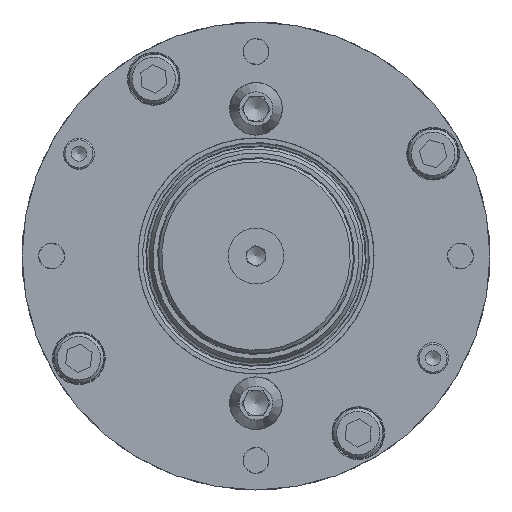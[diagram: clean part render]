
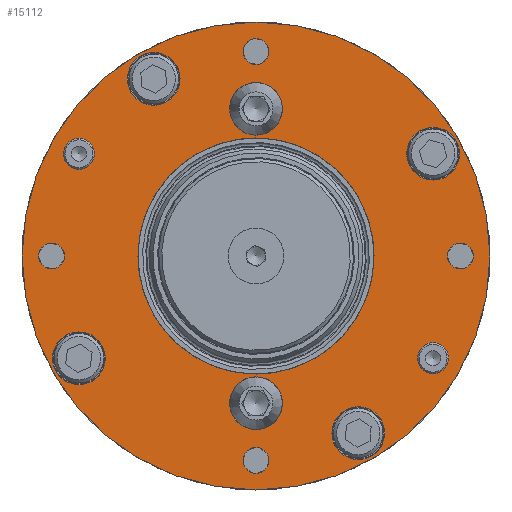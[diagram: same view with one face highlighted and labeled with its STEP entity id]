
A CAD part, left-side view. The second image highlights one B-rep face of the part: STEP entity #15112.
In plain terms, the highlighted planar face has unit normal (-1, 0, 0) as drawn and (0, 0, 1) by its records, which use the part's own axes.
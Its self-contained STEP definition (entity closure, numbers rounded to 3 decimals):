
#3555=PLANE($,#16307);
#4145=FACE_BOUND($,#5854,.T.);
#4146=FACE_BOUND($,#5855,.T.);
#4147=FACE_BOUND($,#5856,.T.);
#4148=FACE_BOUND($,#5857,.T.);
#4149=FACE_BOUND($,#5858,.T.);
#4150=FACE_BOUND($,#5859,.T.);
#4151=FACE_BOUND($,#5860,.T.);
#4152=FACE_BOUND($,#5861,.T.);
#4153=FACE_BOUND($,#5862,.T.);
#4154=FACE_BOUND($,#5863,.T.);
#4155=FACE_BOUND($,#5864,.T.);
#4156=FACE_BOUND($,#5865,.T.);
#4157=FACE_BOUND($,#5866,.T.);
#4158=FACE_BOUND($,#5867,.T.);
#5854=EDGE_LOOP($,(#11631));
#5855=EDGE_LOOP($,(#11632));
#5856=EDGE_LOOP($,(#11633));
#5857=EDGE_LOOP($,(#11634));
#5858=EDGE_LOOP($,(#11635));
#5859=EDGE_LOOP($,(#11636));
#5860=EDGE_LOOP($,(#11637));
#5861=EDGE_LOOP($,(#11638));
#5862=EDGE_LOOP($,(#11639));
#5863=EDGE_LOOP($,(#11640));
#5864=EDGE_LOOP($,(#11641));
#5865=EDGE_LOOP($,(#11642));
#5866=EDGE_LOOP($,(#11643));
#5867=EDGE_LOOP($,(#11644));
#6975=CIRCLE($,#16233,38.1);
#6979=CIRCLE($,#16239,5.);
#6983=CIRCLE($,#16246,8.5);
#6989=CIRCLE($,#16254,5.);
#6992=CIRCLE($,#16260,8.5);
#6995=CIRCLE($,#16265,4.188);
#6998=CIRCLE($,#16270,8.5);
#7001=CIRCLE($,#16275,4.188);
#7004=CIRCLE($,#16280,8.5);
#7007=CIRCLE($,#16285,4.188);
#7010=CIRCLE($,#16290,8.5);
#7013=CIRCLE($,#16295,4.188);
#7016=CIRCLE($,#16300,8.5);
#7019=CIRCLE($,#16306,75.502);
#7645=VERTEX_POINT($,#22559);
#7649=VERTEX_POINT($,#22569);
#7653=VERTEX_POINT($,#22580);
#7657=VERTEX_POINT($,#22592);
#7660=VERTEX_POINT($,#22601);
#7663=VERTEX_POINT($,#22609);
#7666=VERTEX_POINT($,#22617);
#7669=VERTEX_POINT($,#22625);
#7672=VERTEX_POINT($,#22633);
#7675=VERTEX_POINT($,#22641);
#7678=VERTEX_POINT($,#22649);
#7681=VERTEX_POINT($,#22657);
#7684=VERTEX_POINT($,#22665);
#7687=VERTEX_POINT($,#22674);
#9162=EDGE_CURVE($,#7645,#7645,#6975,.T.);
#9166=EDGE_CURVE($,#7649,#7649,#6979,.T.);
#9170=EDGE_CURVE($,#7653,#7653,#6983,.T.);
#9176=EDGE_CURVE($,#7657,#7657,#6989,.T.);
#9179=EDGE_CURVE($,#7660,#7660,#6992,.T.);
#9182=EDGE_CURVE($,#7663,#7663,#6995,.T.);
#9185=EDGE_CURVE($,#7666,#7666,#6998,.T.);
#9188=EDGE_CURVE($,#7669,#7669,#7001,.T.);
#9191=EDGE_CURVE($,#7672,#7672,#7004,.T.);
#9194=EDGE_CURVE($,#7675,#7675,#7007,.T.);
#9197=EDGE_CURVE($,#7678,#7678,#7010,.T.);
#9200=EDGE_CURVE($,#7681,#7681,#7013,.T.);
#9203=EDGE_CURVE($,#7684,#7684,#7016,.T.);
#9206=EDGE_CURVE($,#7687,#7687,#7019,.T.);
#11631=ORIENTED_EDGE($,*,*,#9162,.T.);
#11632=ORIENTED_EDGE($,*,*,#9166,.T.);
#11633=ORIENTED_EDGE($,*,*,#9170,.T.);
#11634=ORIENTED_EDGE($,*,*,#9176,.T.);
#11635=ORIENTED_EDGE($,*,*,#9179,.T.);
#11636=ORIENTED_EDGE($,*,*,#9182,.T.);
#11637=ORIENTED_EDGE($,*,*,#9185,.T.);
#11638=ORIENTED_EDGE($,*,*,#9188,.T.);
#11639=ORIENTED_EDGE($,*,*,#9191,.T.);
#11640=ORIENTED_EDGE($,*,*,#9194,.T.);
#11641=ORIENTED_EDGE($,*,*,#9197,.T.);
#11642=ORIENTED_EDGE($,*,*,#9200,.T.);
#11643=ORIENTED_EDGE($,*,*,#9203,.T.);
#11644=ORIENTED_EDGE($,*,*,#9206,.F.);
#15112=ADVANCED_FACE($,(#4145,#4146,#4147,#4148,#4149,#4150,#4151,#4152,
#4153,#4154,#4155,#4156,#4157,#4158),#3555,.F.);
#16233=AXIS2_PLACEMENT_3D($,#22560,#18293,#18294);
#16239=AXIS2_PLACEMENT_3D($,#22570,#18305,#18306);
#16246=AXIS2_PLACEMENT_3D($,#22581,#18319,#18320);
#16254=AXIS2_PLACEMENT_3D($,#22593,#18335,#18336);
#16260=AXIS2_PLACEMENT_3D($,#22602,#18347,#18348);
#16265=AXIS2_PLACEMENT_3D($,#22610,#18357,#18358);
#16270=AXIS2_PLACEMENT_3D($,#22618,#18367,#18368);
#16275=AXIS2_PLACEMENT_3D($,#22626,#18377,#18378);
#16280=AXIS2_PLACEMENT_3D($,#22634,#18387,#18388);
#16285=AXIS2_PLACEMENT_3D($,#22642,#18397,#18398);
#16290=AXIS2_PLACEMENT_3D($,#22650,#18407,#18408);
#16295=AXIS2_PLACEMENT_3D($,#22658,#18417,#18418);
#16300=AXIS2_PLACEMENT_3D($,#22666,#18427,#18428);
#16306=AXIS2_PLACEMENT_3D($,#22675,#18439,#18440);
#16307=AXIS2_PLACEMENT_3D($,#22676,#18441,#18442);
#18293=DIRECTION('center_axis',(0.,0.,-1.));
#18294=DIRECTION('ref_axis',(1.,0.,0.));
#18305=DIRECTION('center_axis',(0.,0.,-1.));
#18306=DIRECTION('ref_axis',(-1.,0.,0.));
#18319=DIRECTION('center_axis',(0.,0.,-1.));
#18320=DIRECTION('ref_axis',(-1.,0.,0.));
#18335=DIRECTION('center_axis',(0.,0.,-1.));
#18336=DIRECTION('ref_axis',(1.,0.,0.));
#18347=DIRECTION('center_axis',(0.,0.,-1.));
#18348=DIRECTION('ref_axis',(1.,0.,0.));
#18357=DIRECTION('center_axis',(0.,0.,-1.));
#18358=DIRECTION('ref_axis',(0.,-1.,0.));
#18367=DIRECTION('center_axis',(0.,0.,-1.));
#18368=DIRECTION('ref_axis',(0.,-1.,0.));
#18377=DIRECTION('center_axis',(0.,0.,-1.));
#18378=DIRECTION('ref_axis',(-1.,0.,0.));
#18387=DIRECTION('center_axis',(0.,0.,-1.));
#18388=DIRECTION('ref_axis',(-1.,0.,0.));
#18397=DIRECTION('center_axis',(0.,0.,-1.));
#18398=DIRECTION('ref_axis',(0.,1.,0.));
#18407=DIRECTION('center_axis',(0.,0.,-1.));
#18408=DIRECTION('ref_axis',(0.,1.,0.));
#18417=DIRECTION('center_axis',(0.,0.,-1.));
#18418=DIRECTION('ref_axis',(1.,0.,0.));
#18427=DIRECTION('center_axis',(0.,0.,-1.));
#18428=DIRECTION('ref_axis',(1.,0.,0.));
#18439=DIRECTION('center_axis',(0.,0.,-1.));
#18440=DIRECTION('ref_axis',(-1.,0.,0.));
#18441=DIRECTION('center_axis',(0.,0.,-1.));
#18442=DIRECTION('ref_axis',(-1.,0.,0.));
#22559=CARTESIAN_POINT('',(38.1,-1.851,0.));
#22560=CARTESIAN_POINT('Origin',(0.,-1.851,0.));
#22569=CARTESIAN_POINT('',(52.158,31.149,0.));
#22570=CARTESIAN_POINT('Origin',(57.158,31.149,0.));
#22580=CARTESIAN_POINT('',(32.636,-25.601,0.));
#22581=CARTESIAN_POINT('Origin',(41.136,-25.601,0.));
#22592=CARTESIAN_POINT('',(-52.158,-34.851,0.));
#22593=CARTESIAN_POINT('Origin',(-57.158,-34.851,0.));
#22601=CARTESIAN_POINT('',(-32.636,21.899,0.));
#22602=CARTESIAN_POINT('Origin',(-41.136,21.899,0.));
#22609=CARTESIAN_POINT('',(33.,51.119,0.));
#22610=CARTESIAN_POINT('Origin',(33.,55.307,0.));
#22617=CARTESIAN_POINT('',(66.,-10.351,0.));
#22618=CARTESIAN_POINT('Origin',(66.,-1.851,0.));
#22625=CARTESIAN_POINT('',(52.97,-34.851,0.));
#22626=CARTESIAN_POINT('Origin',(57.158,-34.851,0.));
#22633=CARTESIAN_POINT('',(-8.5,-67.851,0.));
#22634=CARTESIAN_POINT('Origin',(0.,-67.851,
0.));
#22641=CARTESIAN_POINT('',(-33.,-54.821,0.));
#22642=CARTESIAN_POINT('Origin',(-33.,-59.009,0.));
#22649=CARTESIAN_POINT('',(-66.,6.649,0.));
#22650=CARTESIAN_POINT('Origin',(-66.,-1.851,0.));
#22657=CARTESIAN_POINT('',(-52.97,31.149,0.));
#22658=CARTESIAN_POINT('Origin',(-57.158,31.149,0.));
#22665=CARTESIAN_POINT('',(8.5,64.149,0.));
#22666=CARTESIAN_POINT('Origin',(0.,64.149,0.));
#22674=CARTESIAN_POINT('',(75.502,-1.851,0.));
#22675=CARTESIAN_POINT('Origin',(0.,-1.851,0.));
#22676=CARTESIAN_POINT('Origin',(0.,-1.851,0.));
